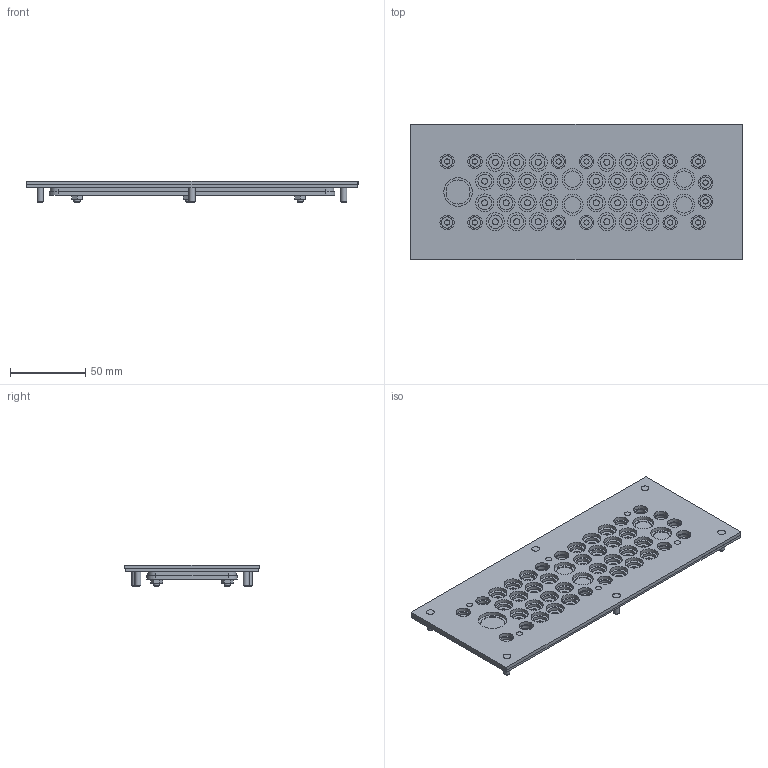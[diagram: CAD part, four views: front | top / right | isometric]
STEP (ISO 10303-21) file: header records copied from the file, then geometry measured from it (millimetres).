
FILE_DESCRIPTION(/* description */ ('Unknown'),/* implementation_level */ '2;1');
FILE_NAME(/* name */ 'KDP- S 90_47 V4A Panduit',/* time_stamp */ '2022-06-02T10:25:52+02:00',/* author */ ('Unknown'),/* organization */ ('Unknown'),/* preprocessor_version */ 'ST-DEVELOPER v16.7',/* originating_system */ 'Solid Edge',/* authorisation */ 'Unknown');
FILE_SCHEMA (('AUTOMOTIVE_DESIGN {1 0 10303 214 3 1 1}'));
Length unit declared in the file: millimetre
Products named in the file (6): KDP- 90_47 V4A Panduit; KDP-M 90_47 V4A FLP mB; KDP-V 90_47 NBR 8766303706; KDP-A 90_47 EPDM 8766303705; KDP-M 90_47 V4A_ADP; 6kt- Mutter M4x 0.8d V4
Assembly tree (10 placements, depth 2):
  KDP- 90_47 V4A Panduit
    KDP-M 90_47 V4A FLP mB
    KDP-V 90_47 NBR 8766303706
    KDP-A 90_47 EPDM 8766303705
    KDP-M 90_47 V4A_ADP
    6kt- Mutter M4x 0.8d V4  x6
Bounding box: 221 x 90 x 14.5 mm (x, y, z)
Volume: 112172.1 mm3; surface area: 117619.1 mm2
Topology: 10 solids, 22 shells, 480 faces, 1249 edges, 889 vertices
Faces by surface type: cylinder 262, plane 176, cone 30, torus 12
Full cylindrical faces by diameter (mm): 3.242 x6, 3.5 x14, 4 x52, 4.2 x18, 4.5 x10, 5.5 x12, 6.5 x1, 7.5 x14, 9 x28, 9.5 x14, 10.5 x14, 11 x4, 12 x28, 12.5 x28, 14 x4, 15 x4, 16 x1, 19 x1, 20 x1
Entity records: 12550 total; most frequent: DIRECTION 2038, CARTESIAN_POINT 1810, ORIENTED_EDGE 1264, EDGE_LOOP 1104, FACE_BOUND 1104, AXIS2_PLACEMENT_3D 982, EDGE_CURVE 632, VERTEX_POINT 598
